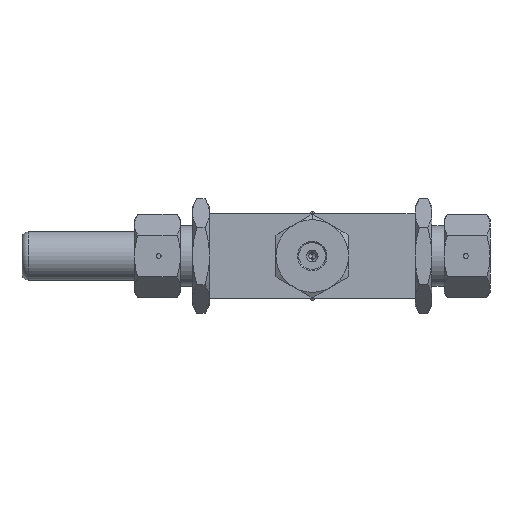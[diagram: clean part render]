
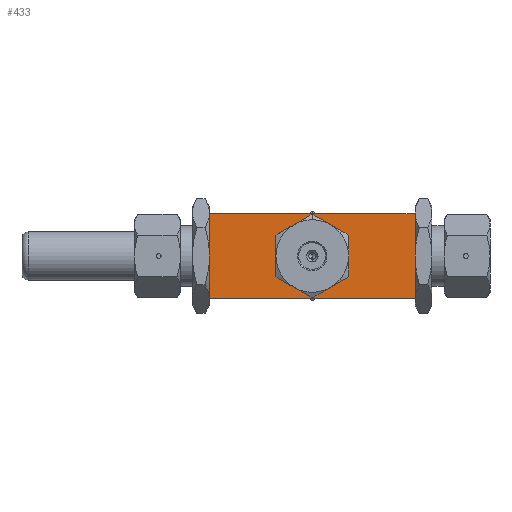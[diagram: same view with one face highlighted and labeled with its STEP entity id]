
A CAD part, front view. The second image highlights one B-rep face of the part: STEP entity #433.
In plain terms, the highlighted planar face has unit normal (0, -1, 0).
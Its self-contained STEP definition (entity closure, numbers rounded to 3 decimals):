
#75 = DIRECTION ( 'NONE',  ( 0., -1., 0. ) ) ;
#119 = DIRECTION ( 'NONE',  ( 0., -1., 0. ) ) ;
#231 = DIRECTION ( 'NONE',  ( 0., 0., -1. ) ) ;
#277 = DIRECTION ( 'NONE',  ( 0., 0., 1. ) ) ;
#284 = VERTEX_POINT ( 'NONE', #6489 ) ;
#382 = VECTOR ( 'NONE', #1416, 1000. ) ;
#433 = ADVANCED_FACE ( 'NONE', ( #5113, #1408 ), #2945, .F. ) ;
#456 = CARTESIAN_POINT ( 'NONE',  ( -42.5, -32.5, -17.5 ) ) ;
#552 = CARTESIAN_POINT ( 'NONE',  ( -7.5, -32.5, -12.99 ) ) ;
#606 = EDGE_CURVE ( 'NONE', #4255, #1620, #2120, .T. ) ;
#663 = CARTESIAN_POINT ( 'NONE',  ( 0., -32.5, 0. ) ) ;
#723 = ORIENTED_EDGE ( 'NONE', *, *, #2992, .F. ) ;
#742 = ORIENTED_EDGE ( 'NONE', *, *, #2001, .F. ) ;
#767 = VERTEX_POINT ( 'NONE', #4933 ) ;
#844 = VERTEX_POINT ( 'NONE', #5552 ) ;
#856 = VERTEX_POINT ( 'NONE', #866 ) ;
#866 = CARTESIAN_POINT ( 'NONE',  ( 7.5, -32.5, -12.99 ) ) ;
#980 = EDGE_LOOP ( 'NONE', ( #1655, #3817, #742, #1759, #2436, #5782, #723 ) ) ;
#993 = AXIS2_PLACEMENT_3D ( 'NONE', #5100, #4497, #231 ) ;
#1047 = CARTESIAN_POINT ( 'NONE',  ( 0., -32.5, 0. ) ) ;
#1392 = AXIS2_PLACEMENT_3D ( 'NONE', #4280, #75, #6420 ) ;
#1408 = FACE_BOUND ( 'NONE', #980, .T. ) ;
#1416 = DIRECTION ( 'NONE',  ( 1., 0., 0. ) ) ;
#1456 = AXIS2_PLACEMENT_3D ( 'NONE', #5077, #3444, #277 ) ;
#1616 = AXIS2_PLACEMENT_3D ( 'NONE', #1047, #3187, #3223 ) ;
#1620 = VERTEX_POINT ( 'NONE', #2335 ) ;
#1655 = ORIENTED_EDGE ( 'NONE', *, *, #606, .F. ) ;
#1661 = DIRECTION ( 'NONE',  ( 0., -1., 0. ) ) ;
#1759 = ORIENTED_EDGE ( 'NONE', *, *, #5632, .F. ) ;
#1933 = VERTEX_POINT ( 'NONE', #3332 ) ;
#1941 = EDGE_CURVE ( 'NONE', #1933, #284, #6588, .T. ) ;
#2001 = EDGE_CURVE ( 'NONE', #856, #844, #6160, .T. ) ;
#2120 = CIRCLE ( 'NONE', #4683, 15. ) ;
#2154 = CARTESIAN_POINT ( 'NONE',  ( 0., -32.5, 0. ) ) ;
#2212 = DIRECTION ( 'NONE',  ( 0., 0., -1. ) ) ;
#2335 = CARTESIAN_POINT ( 'NONE',  ( -7.5, -32.5, 12.99 ) ) ;
#2394 = VERTEX_POINT ( 'NONE', #6079 ) ;
#2400 = EDGE_CURVE ( 'NONE', #3199, #3302, #3569, .T. ) ;
#2404 = CIRCLE ( 'NONE', #1616, 15. ) ;
#2436 = ORIENTED_EDGE ( 'NONE', *, *, #2400, .F. ) ;
#2521 = CIRCLE ( 'NONE', #6882, 15. ) ;
#2761 = AXIS2_PLACEMENT_3D ( 'NONE', #4285, #119, #6425 ) ;
#2805 = DIRECTION ( 'NONE',  ( 0., 0., -1. ) ) ;
#2945 = PLANE ( 'NONE',  #1456 ) ;
#2992 = EDGE_CURVE ( 'NONE', #1620, #4128, #3872, .T. ) ;
#3187 = DIRECTION ( 'NONE',  ( 0., -1., 0. ) ) ;
#3199 = VERTEX_POINT ( 'NONE', #552 ) ;
#3223 = DIRECTION ( 'NONE',  ( 0., 0., -1. ) ) ;
#3226 = EDGE_CURVE ( 'NONE', #4128, #3199, #2404, .T. ) ;
#3290 = CARTESIAN_POINT ( 'NONE',  ( 0., -32.5, -15. ) ) ;
#3302 = VERTEX_POINT ( 'NONE', #3290 ) ;
#3332 = CARTESIAN_POINT ( 'NONE',  ( 42.5, -32.5, 17.5 ) ) ;
#3415 = CARTESIAN_POINT ( 'NONE',  ( -15., -32.5, 0. ) ) ;
#3444 = DIRECTION ( 'NONE',  ( 0., 1., 0. ) ) ;
#3551 = VECTOR ( 'NONE', #6801, 1000. ) ;
#3569 = CIRCLE ( 'NONE', #993, 15. ) ;
#3649 = LINE ( 'NONE', #4653, #3551 ) ;
#3807 = VECTOR ( 'NONE', #2805, 1000. ) ;
#3817 = ORIENTED_EDGE ( 'NONE', *, *, #4058, .F. ) ;
#3830 = ORIENTED_EDGE ( 'NONE', *, *, #4243, .T. ) ;
#3872 = CIRCLE ( 'NONE', #1392, 15. ) ;
#3898 = DIRECTION ( 'NONE',  ( 0., 0., -1. ) ) ;
#3995 = EDGE_CURVE ( 'NONE', #767, #2394, #4701, .T. ) ;
#4058 = EDGE_CURVE ( 'NONE', #844, #4255, #2521, .T. ) ;
#4127 = CARTESIAN_POINT ( 'NONE',  ( 0., -32.5, 0. ) ) ;
#4128 = VERTEX_POINT ( 'NONE', #3415 ) ;
#4213 = EDGE_LOOP ( 'NONE', ( #3830, #6915, #5337, #4754 ) ) ;
#4243 = EDGE_CURVE ( 'NONE', #2394, #284, #6343, .T. ) ;
#4255 = VERTEX_POINT ( 'NONE', #6838 ) ;
#4280 = CARTESIAN_POINT ( 'NONE',  ( 0., -32.5, 0. ) ) ;
#4285 = CARTESIAN_POINT ( 'NONE',  ( 0., -32.5, 0. ) ) ;
#4497 = DIRECTION ( 'NONE',  ( 0., -1., 0. ) ) ;
#4653 = CARTESIAN_POINT ( 'NONE',  ( -42.5, -32.5, 17.5 ) ) ;
#4683 = AXIS2_PLACEMENT_3D ( 'NONE', #4127, #6337, #5802 ) ;
#4701 = LINE ( 'NONE', #6811, #6431 ) ;
#4754 = ORIENTED_EDGE ( 'NONE', *, *, #3995, .T. ) ;
#4930 = AXIS2_PLACEMENT_3D ( 'NONE', #663, #5949, #2212 ) ;
#4933 = CARTESIAN_POINT ( 'NONE',  ( -42.5, -32.5, 17.5 ) ) ;
#5077 = CARTESIAN_POINT ( 'NONE',  ( -42.5, -32.5, 17.5 ) ) ;
#5100 = CARTESIAN_POINT ( 'NONE',  ( 0., -32.5, 0. ) ) ;
#5113 = FACE_OUTER_BOUND ( 'NONE', #4213, .T. ) ;
#5337 = ORIENTED_EDGE ( 'NONE', *, *, #6187, .F. ) ;
#5552 = CARTESIAN_POINT ( 'NONE',  ( 15., -32.5, 0. ) ) ;
#5632 = EDGE_CURVE ( 'NONE', #3302, #856, #6785, .T. ) ;
#5782 = ORIENTED_EDGE ( 'NONE', *, *, #3226, .F. ) ;
#5802 = DIRECTION ( 'NONE',  ( 0., 0., -1. ) ) ;
#5949 = DIRECTION ( 'NONE',  ( 0., -1., 0. ) ) ;
#6079 = CARTESIAN_POINT ( 'NONE',  ( -42.5, -32.5, -17.5 ) ) ;
#6160 = CIRCLE ( 'NONE', #4930, 15. ) ;
#6187 = EDGE_CURVE ( 'NONE', #767, #1933, #3649, .T. ) ;
#6337 = DIRECTION ( 'NONE',  ( 0., -1., 0. ) ) ;
#6343 = LINE ( 'NONE', #456, #382 ) ;
#6420 = DIRECTION ( 'NONE',  ( 0., 0., -1. ) ) ;
#6425 = DIRECTION ( 'NONE',  ( 0., 0., -1. ) ) ;
#6431 = VECTOR ( 'NONE', #6914, 1000. ) ;
#6484 = CARTESIAN_POINT ( 'NONE',  ( 42.5, -32.5, 17.5 ) ) ;
#6489 = CARTESIAN_POINT ( 'NONE',  ( 42.5, -32.5, -17.5 ) ) ;
#6588 = LINE ( 'NONE', #6484, #3807 ) ;
#6785 = CIRCLE ( 'NONE', #2761, 15. ) ;
#6801 = DIRECTION ( 'NONE',  ( 1., 0., 0. ) ) ;
#6811 = CARTESIAN_POINT ( 'NONE',  ( -42.5, -32.5, 17.5 ) ) ;
#6838 = CARTESIAN_POINT ( 'NONE',  ( 7.5, -32.5, 12.99 ) ) ;
#6882 = AXIS2_PLACEMENT_3D ( 'NONE', #2154, #1661, #3898 ) ;
#6914 = DIRECTION ( 'NONE',  ( 0., 0., -1. ) ) ;
#6915 = ORIENTED_EDGE ( 'NONE', *, *, #1941, .F. ) ;
